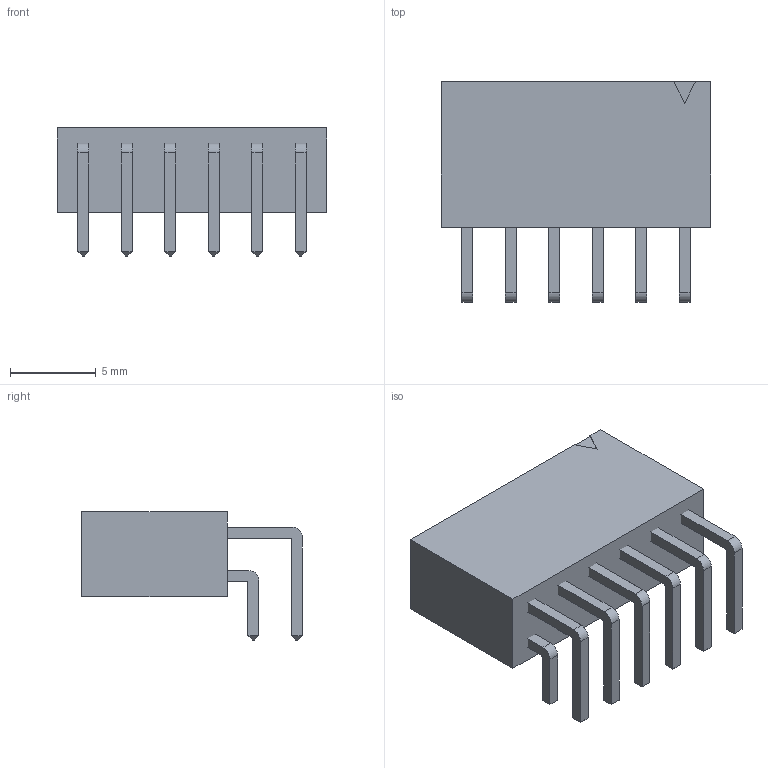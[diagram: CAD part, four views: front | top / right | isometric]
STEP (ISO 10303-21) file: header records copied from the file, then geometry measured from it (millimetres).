
FILE_DESCRIPTION(('FreeCAD Model'),'2;1');
FILE_NAME('/var/www/3D/0T/593384.2.1.stp','2020-04-09T01:53:28',( 'Author'),(''),'Open CASCADE STEP processor 6.9','FreeCAD','Unknown' );
FILE_SCHEMA(('AUTOMOTIVE_DESIGN { 1 0 10303 214 1 1 1 1 }'));
Length unit declared in the file: millimetre
Products named in the file (4): ASSEMBLY; LeadsArray; Body
Assembly tree (3 placements, depth 2):
  ASSEMBLY
    LeadsArray
    LeadsArray
    Body
Bounding box: 15.75 x 12.89 x 7.49 mm (x, y, z)
Volume: 673.3 mm3; surface area: 1005.9 mm2
Topology: 13 solids, 13 shells, 285 faces, 645 edges, 398 vertices
Faces by surface type: plane 261, cylinder 24
Entity records: 16338 total; most frequent: CARTESIAN_POINT 2766, DIRECTION 2537, LINE 1839, VECTOR 1839, ORIENTED_EDGE 1290, PCURVE 1290, DEFINITIONAL_REPRESENTATION 1290, EDGE_CURVE 645
